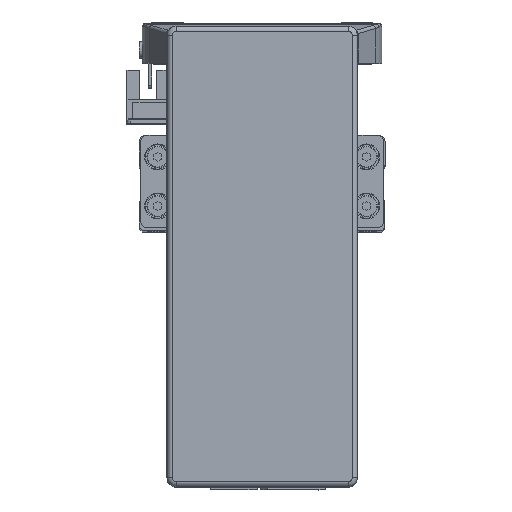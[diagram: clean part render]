
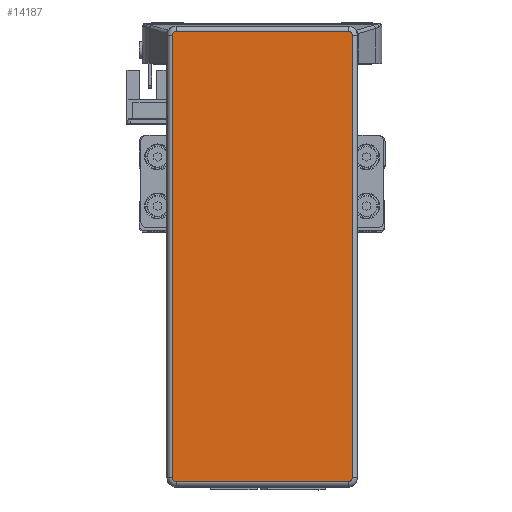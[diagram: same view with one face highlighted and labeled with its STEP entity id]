
A CAD part, top view. The second image highlights one B-rep face of the part: STEP entity #14187.
In plain terms, the highlighted planar face has unit normal (0, 0, 1) as drawn and (0, 0, -1) by its records, which use the part's own axes.
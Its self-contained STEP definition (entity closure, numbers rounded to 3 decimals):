
#4982 = CARTESIAN_POINT ( 'NONE',  ( -71.995, 29.295, -32.2 ) ) ;
#5012 = CARTESIAN_POINT ( 'NONE',  ( 73.295, -27.995, -32.2 ) ) ;
#5021 = CARTESIAN_POINT ( 'NONE',  ( 71.995, 29.295, -32.2 ) ) ;
#5023 = CARTESIAN_POINT ( 'NONE',  ( 73.295, 27.995, -32.2 ) ) ;
#5037 = CARTESIAN_POINT ( 'NONE',  ( -73.295, -27.995, -32.2 ) ) ;
#5052 = CARTESIAN_POINT ( 'NONE',  ( 71.995, -29.295, -32.2 ) ) ;
#5057 = CARTESIAN_POINT ( 'NONE',  ( -73.295, 27.995, -32.2 ) ) ;
#5075 = CARTESIAN_POINT ( 'NONE',  ( -71.995, -29.295, -32.2 ) ) ;
#9803 = AXIS2_PLACEMENT_3D ( 'NONE', #30851, #30843, #30845 ) ;
#9807 = AXIS2_PLACEMENT_3D ( 'NONE', #30955, #30927, #30952 ) ;
#9843 = AXIS2_PLACEMENT_3D ( 'NONE', #30913, #30900, #30876 ) ;
#9899 = AXIS2_PLACEMENT_3D ( 'NONE', #30886, #30902, #30887 ) ;
#10412 = EDGE_CURVE ( 'NONE', #12740, #12757, #28593, .T. ) ;
#10432 = EDGE_CURVE ( 'NONE', #12750, #12764, #28624, .T. ) ;
#10446 = EDGE_CURVE ( 'NONE', #12764, #12716, #28622, .T. ) ;
#10471 = EDGE_CURVE ( 'NONE', #12674, #12740, #28579, .T. ) ;
#10475 = EDGE_CURVE ( 'NONE', #12716, #12691, #28588, .T. ) ;
#10481 = EDGE_CURVE ( 'NONE', #12691, #12665, #28632, .T. ) ;
#10489 = EDGE_CURVE ( 'NONE', #12665, #12674, #28673, .T. ) ;
#10491 = EDGE_CURVE ( 'NONE', #12757, #12750, #28654, .T. ) ;
#12665 = VERTEX_POINT ( 'NONE', #5023 ) ;
#12674 = VERTEX_POINT ( 'NONE', #5012 ) ;
#12691 = VERTEX_POINT ( 'NONE', #5021 ) ;
#12716 = VERTEX_POINT ( 'NONE', #4982 ) ;
#12740 = VERTEX_POINT ( 'NONE', #5052 ) ;
#12750 = VERTEX_POINT ( 'NONE', #5037 ) ;
#12757 = VERTEX_POINT ( 'NONE', #5075 ) ;
#12764 = VERTEX_POINT ( 'NONE', #5057 ) ;
#14187 = ADVANCED_FACE ( 'NONE', ( #26293 ), #27084, .F. ) ;
#16536 = ORIENTED_EDGE ( 'NONE', *, *, #10412, .T. ) ;
#16539 = ORIENTED_EDGE ( 'NONE', *, *, #10475, .T. ) ;
#16553 = ORIENTED_EDGE ( 'NONE', *, *, #10432, .T. ) ;
#16554 = ORIENTED_EDGE ( 'NONE', *, *, #10489, .T. ) ;
#16556 = ORIENTED_EDGE ( 'NONE', *, *, #10491, .T. ) ;
#16566 = ORIENTED_EDGE ( 'NONE', *, *, #10446, .T. ) ;
#16586 = ORIENTED_EDGE ( 'NONE', *, *, #10471, .T. ) ;
#16600 = ORIENTED_EDGE ( 'NONE', *, *, #10481, .T. ) ;
#24104 = AXIS2_PLACEMENT_3D ( 'NONE', #27087, #27068, #27043 ) ;
#26293 = FACE_OUTER_BOUND ( 'NONE', #34488, .T. ) ;
#27043 = DIRECTION ( 'NONE',  ( 1., 0., 0. ) ) ;
#27068 = DIRECTION ( 'NONE',  ( 0., 0., 1. ) ) ;
#27084 = PLANE ( 'NONE',  #24104 ) ;
#27087 = CARTESIAN_POINT ( 'NONE',  ( 71.995, -27.995, -32.2 ) ) ;
#28579 = CIRCLE ( 'NONE', #9843, 1.3 ) ;
#28588 = LINE ( 'NONE', #30878, #28591 ) ;
#28591 = VECTOR ( 'NONE', #30881, 1000. ) ;
#28593 = LINE ( 'NONE', #30807, #28595 ) ;
#28595 = VECTOR ( 'NONE', #30819, 1000. ) ;
#28599 = VECTOR ( 'NONE', #30868, 1000. ) ;
#28622 = CIRCLE ( 'NONE', #9803, 1.3 ) ;
#28624 = LINE ( 'NONE', #30869, #28599 ) ;
#28632 = CIRCLE ( 'NONE', #9899, 1.3 ) ;
#28653 = VECTOR ( 'NONE', #30947, 1000. ) ;
#28654 = CIRCLE ( 'NONE', #9807, 1.3 ) ;
#28673 = LINE ( 'NONE', #30925, #28653 ) ;
#30807 = CARTESIAN_POINT ( 'NONE',  ( 71.995, -29.295, -32.2 ) ) ;
#30819 = DIRECTION ( 'NONE',  ( -1., 0., 0. ) ) ;
#30843 = DIRECTION ( 'NONE',  ( 0., 0., -1. ) ) ;
#30845 = DIRECTION ( 'NONE',  ( 1., 0., 0. ) ) ;
#30851 = CARTESIAN_POINT ( 'NONE',  ( -71.995, 27.995, -32.2 ) ) ;
#30868 = DIRECTION ( 'NONE',  ( 0., 1., 0. ) ) ;
#30869 = CARTESIAN_POINT ( 'NONE',  ( -73.295, -27.995, -32.2 ) ) ;
#30876 = DIRECTION ( 'NONE',  ( 1., 0., 0. ) ) ;
#30878 = CARTESIAN_POINT ( 'NONE',  ( 71.995, 29.295, -32.2 ) ) ;
#30881 = DIRECTION ( 'NONE',  ( 1., 0., 0. ) ) ;
#30886 = CARTESIAN_POINT ( 'NONE',  ( 71.995, 27.995, -32.2 ) ) ;
#30887 = DIRECTION ( 'NONE',  ( 1., 0., 0. ) ) ;
#30900 = DIRECTION ( 'NONE',  ( 0., 0., -1. ) ) ;
#30902 = DIRECTION ( 'NONE',  ( 0., 0., -1. ) ) ;
#30913 = CARTESIAN_POINT ( 'NONE',  ( 71.995, -27.995, -32.2 ) ) ;
#30925 = CARTESIAN_POINT ( 'NONE',  ( 73.295, -27.995, -32.2 ) ) ;
#30927 = DIRECTION ( 'NONE',  ( 0., 0., -1. ) ) ;
#30947 = DIRECTION ( 'NONE',  ( 0., -1., 0. ) ) ;
#30952 = DIRECTION ( 'NONE',  ( 1., 0., 0. ) ) ;
#30955 = CARTESIAN_POINT ( 'NONE',  ( -71.995, -27.995, -32.2 ) ) ;
#34488 = EDGE_LOOP ( 'NONE', ( #16554, #16586, #16536, #16556, #16553, #16566, #16539, #16600 ) ) ;
